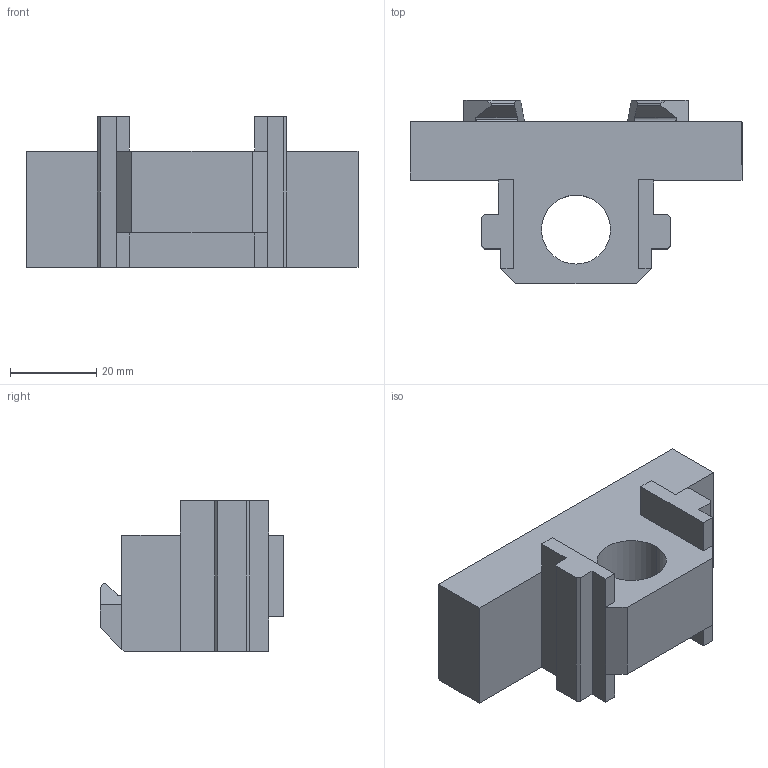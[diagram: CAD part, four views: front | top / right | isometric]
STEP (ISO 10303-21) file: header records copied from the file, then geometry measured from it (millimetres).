
FILE_DESCRIPTION (( 'STEP AP203' ), '1' );
FILE_NAME ('57711-0809.STEP', '2022-07-05T06:19:29', ( '' ), ( '' ), 'SwSTEP 2.0', 'SolidWorks 2021', '' );
FILE_SCHEMA (( 'CONFIG_CONTROL_DESIGN' ));
Length unit declared in the file: millimetre
Products named in the file (1): 57711-0809
Bounding box: 77 x 42.5 x 35 mm (x, y, z)
Volume: 45922.8 mm3; surface area: 12555.8 mm2
Topology: 1 solids, 1 shells, 390 faces, 1062 edges, 706 vertices
Faces by surface type: plane 296, bspline 89, cylinder 5
Entity records: 15005 total; most frequent: CARTESIAN_POINT 5682, ORIENTED_EDGE 2124, DIRECTION 1486, EDGE_CURVE 1062, VECTOR 874, LINE 874, VERTEX_POINT 706, EDGE_LOOP 424
